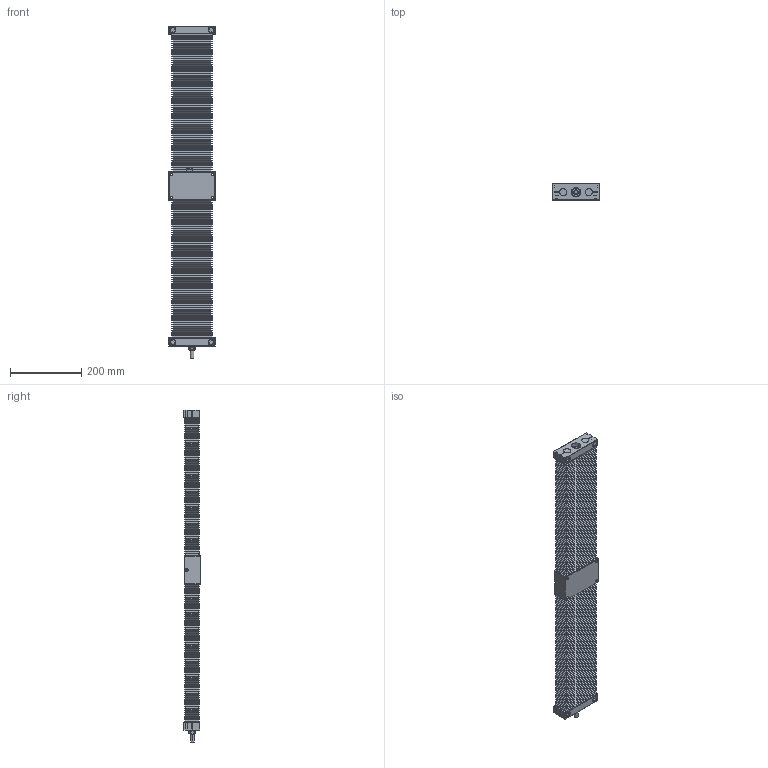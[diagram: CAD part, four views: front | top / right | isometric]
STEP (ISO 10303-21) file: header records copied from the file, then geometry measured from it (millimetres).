
FILE_DESCRIPTION (( 'STEP AP214' ), '1' );
FILE_NAME ('TKC2010B-500H0C-Ä£×é.step', '2025-08-25T08:39:49', ( '' ), ( '' ), 'SwSTEP 2.0', 'SolidWorks 2024', '' );
FILE_SCHEMA (( 'AUTOMOTIVE_DESIGN' ));
Length unit declared in the file: millimetre
Products named in the file (4): TKC20-500-03; TKC20-500-01; TKC2010B-500H0C-模组; TKC20-02
Assembly tree (4 placements, depth 2):
  TKC2010B-500H0C-模组
    TKC20-02
    TKC20-500-01
    TKC20-500-03  x2
Bounding box: 130 x 48 x 933.5 mm (x, y, z)
Volume: 3056077.5 mm3; surface area: 976579.3 mm2
Topology: 14 solids, 14 shells, 2396 faces, 5263 edges, 2940 vertices
Faces by surface type: plane 1857, cylinder 464, cone 36, torus 28, bspline 11
Entity records: 66580 total; most frequent: CARTESIAN_POINT 31606, ORIENTED_EDGE 7238, DIRECTION 6801, EDGE_CURVE 3619, LINE 2601, VECTOR 2601, VERTEX_POINT 2124, AXIS2_PLACEMENT_3D 2100
